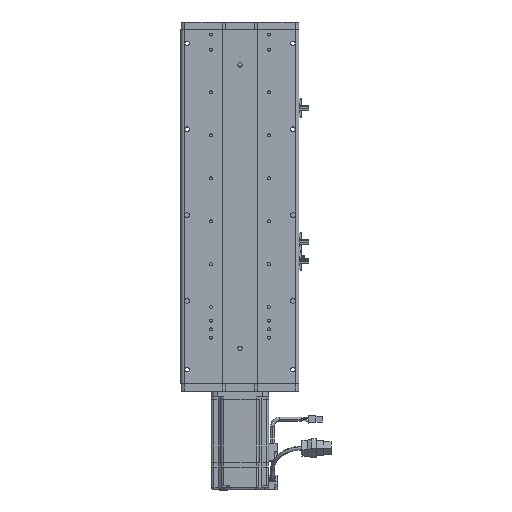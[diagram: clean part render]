
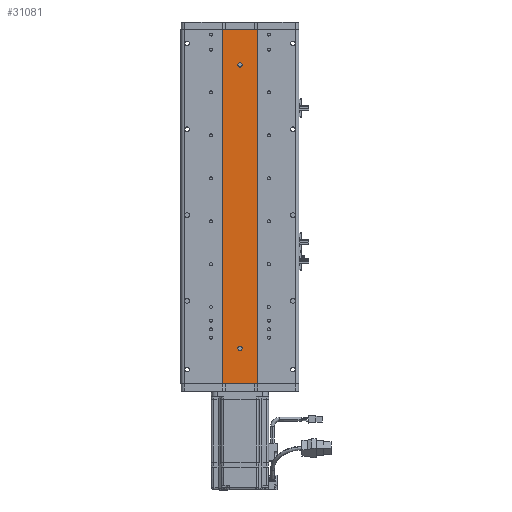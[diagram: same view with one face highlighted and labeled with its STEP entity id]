
A CAD part, front view. The second image highlights one B-rep face of the part: STEP entity #31081.
In plain terms, the highlighted planar face has unit normal (0, -1, 0).
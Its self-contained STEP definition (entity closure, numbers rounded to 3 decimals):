
#1032 = DIRECTION ( 'NONE',  ( 0., 0., -1. ) ) ;
#1039 = CARTESIAN_POINT ( 'NONE',  ( 25., 1., 248. ) ) ;
#1994 = FACE_OUTER_BOUND ( 'NONE', #9953, .T. ) ;
#3122 = ORIENTED_EDGE ( 'NONE', *, *, #38195, .F. ) ;
#3457 = FACE_BOUND ( 'NONE', #50795, .T. ) ;
#4742 = AXIS2_PLACEMENT_3D ( 'NONE', #36088, #7370, #40895 ) ;
#5210 = VECTOR ( 'NONE', #60676, 1000. ) ;
#5994 = VERTEX_POINT ( 'NONE', #61749 ) ;
#6587 = EDGE_LOOP ( 'NONE', ( #3122, #55977 ) ) ;
#6627 = PLANE ( 'NONE',  #59985 ) ;
#7370 = DIRECTION ( 'NONE',  ( 0., -1., 0. ) ) ;
#8450 = CARTESIAN_POINT ( 'NONE',  ( 0., 1., 201. ) ) ;
#9064 = CARTESIAN_POINT ( 'NONE',  ( 0., 1., 198. ) ) ;
#9953 = EDGE_LOOP ( 'NONE', ( #41002, #57521, #51118, #57689 ) ) ;
#11391 = CARTESIAN_POINT ( 'NONE',  ( 25., 1., 248. ) ) ;
#12015 = LINE ( 'NONE', #27737, #24832 ) ;
#13163 = FACE_BOUND ( 'NONE', #6587, .T. ) ;
#13858 = DIRECTION ( 'NONE',  ( 0., 0., -1. ) ) ;
#14305 = VERTEX_POINT ( 'NONE', #40066 ) ;
#14834 = VERTEX_POINT ( 'NONE', #1039 ) ;
#16271 = CIRCLE ( 'NONE', #4742, 3. ) ;
#16597 = EDGE_CURVE ( 'NONE', #14834, #51246, #12015, .T. ) ;
#16806 = AXIS2_PLACEMENT_3D ( 'NONE', #46247, #17494, #51019 ) ;
#17084 = CARTESIAN_POINT ( 'NONE',  ( 0., 1., -195. ) ) ;
#17494 = DIRECTION ( 'NONE',  ( 0., -1., 0. ) ) ;
#17959 = LINE ( 'NONE', #21769, #5210 ) ;
#19908 = CARTESIAN_POINT ( 'NONE',  ( -25., 1., 248. ) ) ;
#20290 = DIRECTION ( 'NONE',  ( 0., -1., 0. ) ) ;
#21769 = CARTESIAN_POINT ( 'NONE',  ( 25., 1., 248. ) ) ;
#24412 = CARTESIAN_POINT ( 'NONE',  ( 25., 1., -248. ) ) ;
#24832 = VECTOR ( 'NONE', #56425, 1000. ) ;
#25911 = DIRECTION ( 'NONE',  ( 0., 1., 0. ) ) ;
#26340 = AXIS2_PLACEMENT_3D ( 'NONE', #9064, #42605, #13858 ) ;
#27737 = CARTESIAN_POINT ( 'NONE',  ( 25., 1., 248. ) ) ;
#28990 = DIRECTION ( 'NONE',  ( 1., 0., 0. ) ) ;
#29037 = CARTESIAN_POINT ( 'NONE',  ( -25., 1., 248. ) ) ;
#29074 = ORIENTED_EDGE ( 'NONE', *, *, #58065, .F. ) ;
#31081 = ADVANCED_FACE ( 'NONE', ( #3457, #13163, #1994 ), #6627, .F. ) ;
#34177 = VERTEX_POINT ( 'NONE', #36022 ) ;
#34660 = CIRCLE ( 'NONE', #44902, 3. ) ;
#35753 = EDGE_CURVE ( 'NONE', #41330, #5994, #61604, .T. ) ;
#35847 = LINE ( 'NONE', #24412, #61283 ) ;
#36022 = CARTESIAN_POINT ( 'NONE',  ( 0., 1., -201. ) ) ;
#36088 = CARTESIAN_POINT ( 'NONE',  ( 0., 1., -198. ) ) ;
#36786 = ORIENTED_EDGE ( 'NONE', *, *, #46935, .F. ) ;
#38195 = EDGE_CURVE ( 'NONE', #14305, #58146, #42226, .T. ) ;
#40066 = CARTESIAN_POINT ( 'NONE',  ( 0., 1., 195. ) ) ;
#40895 = DIRECTION ( 'NONE',  ( 0., 0., -1. ) ) ;
#41002 = ORIENTED_EDGE ( 'NONE', *, *, #61143, .T. ) ;
#41330 = VERTEX_POINT ( 'NONE', #29037 ) ;
#42226 = CIRCLE ( 'NONE', #26340, 3. ) ;
#42605 = DIRECTION ( 'NONE',  ( 0., -1., 0. ) ) ;
#44902 = AXIS2_PLACEMENT_3D ( 'NONE', #48968, #20290, #53781 ) ;
#45393 = CIRCLE ( 'NONE', #16806, 3. ) ;
#46222 = VERTEX_POINT ( 'NONE', #17084 ) ;
#46247 = CARTESIAN_POINT ( 'NONE',  ( 0., 1., -198. ) ) ;
#46935 = EDGE_CURVE ( 'NONE', #34177, #46222, #16271, .T. ) ;
#48906 = VECTOR ( 'NONE', #1032, 1000. ) ;
#48968 = CARTESIAN_POINT ( 'NONE',  ( 0., 1., 198. ) ) ;
#49605 = CARTESIAN_POINT ( 'NONE',  ( 25., 1., -248. ) ) ;
#50795 = EDGE_LOOP ( 'NONE', ( #36786, #29074 ) ) ;
#51019 = DIRECTION ( 'NONE',  ( 0., 0., -1. ) ) ;
#51118 = ORIENTED_EDGE ( 'NONE', *, *, #60471, .F. ) ;
#51246 = VERTEX_POINT ( 'NONE', #49605 ) ;
#53781 = DIRECTION ( 'NONE',  ( 0., 0., -1. ) ) ;
#55018 = EDGE_CURVE ( 'NONE', #58146, #14305, #34660, .T. ) ;
#55977 = ORIENTED_EDGE ( 'NONE', *, *, #55018, .F. ) ;
#56425 = DIRECTION ( 'NONE',  ( 0., 0., -1. ) ) ;
#57521 = ORIENTED_EDGE ( 'NONE', *, *, #16597, .F. ) ;
#57689 = ORIENTED_EDGE ( 'NONE', *, *, #35753, .T. ) ;
#58065 = EDGE_CURVE ( 'NONE', #46222, #34177, #45393, .T. ) ;
#58146 = VERTEX_POINT ( 'NONE', #8450 ) ;
#59388 = DIRECTION ( 'NONE',  ( 0., 0., 1. ) ) ;
#59985 = AXIS2_PLACEMENT_3D ( 'NONE', #11391, #25911, #59388 ) ;
#60471 = EDGE_CURVE ( 'NONE', #41330, #14834, #17959, .T. ) ;
#60676 = DIRECTION ( 'NONE',  ( 1., 0., 0. ) ) ;
#61143 = EDGE_CURVE ( 'NONE', #5994, #51246, #35847, .T. ) ;
#61283 = VECTOR ( 'NONE', #28990, 1000. ) ;
#61604 = LINE ( 'NONE', #19908, #48906 ) ;
#61749 = CARTESIAN_POINT ( 'NONE',  ( -25., 1., -248. ) ) ;
